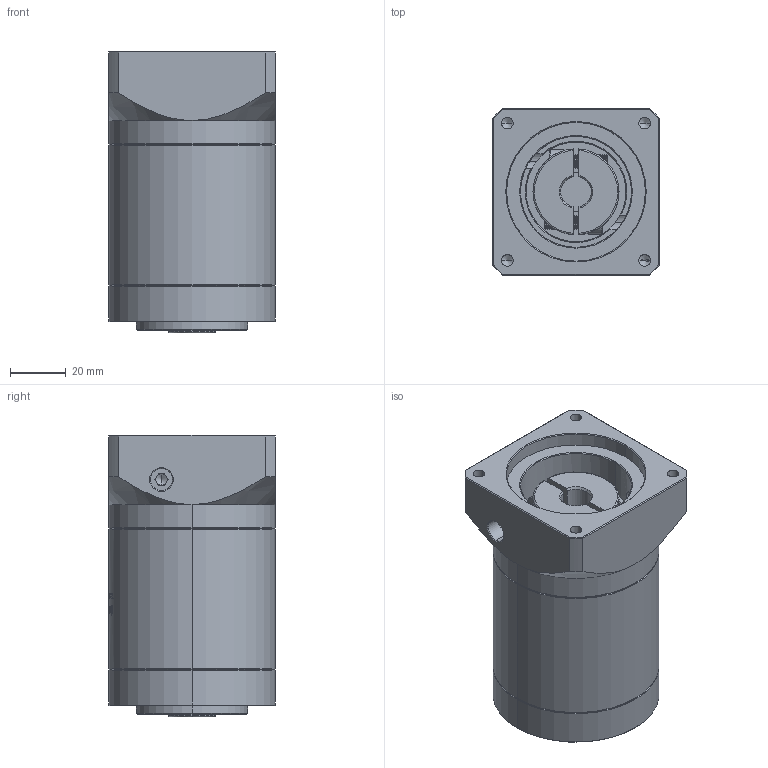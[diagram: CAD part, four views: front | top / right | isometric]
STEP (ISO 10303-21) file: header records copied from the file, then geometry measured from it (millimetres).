
FILE_DESCRIPTION (( 'STEP AP214' ), '1' );
FILE_NAME ('ZE60-K10-L2-11-50-70-M5.STEP', '2022-04-17T15:18:04', ( '' ), ( 'Microsoft' ), 'SwSTEP 2.0', 'SolidWorks 2016', '' );
FILE_SCHEMA (( 'AUTOMOTIVE_DESIGN' ));
Length unit declared in the file: millimetre
Products named in the file (1): ZE60-K10-L2-11-50-70-M5
Bounding box: 60 x 60 x 101.5 mm (x, y, z)
Volume: 256077.6 mm3; surface area: 44724.3 mm2
Topology: 6 solids, 6 shells, 1533 faces, 4158 edges, 2696 vertices
Faces by surface type: plane 717, cylinder 292, bspline 292, cone 214, torus 18
Entity records: 84185 total; most frequent: CARTESIAN_POINT 32115, ORIENTED_EDGE 8276, DIRECTION 6091, EDGE_CURVE 4138, VERTEX_POINT 2696, VECTOR 2143, LINE 2143, AXIS2_PLACEMENT_3D 1974
